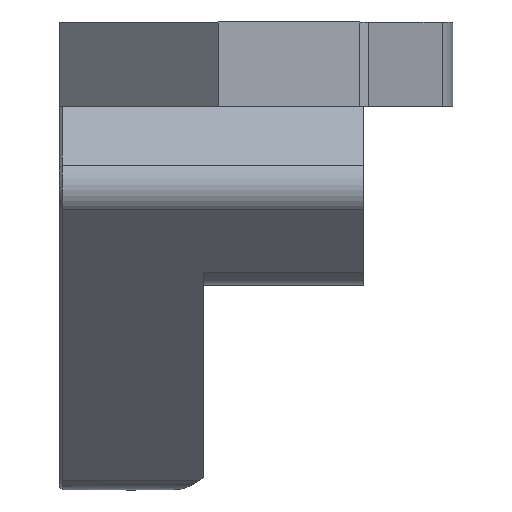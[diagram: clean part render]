
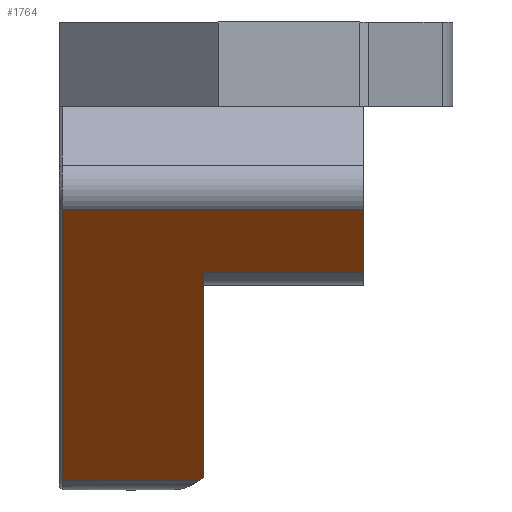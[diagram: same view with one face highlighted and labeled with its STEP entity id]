
A CAD part, left-side view. The second image highlights one B-rep face of the part: STEP entity #1764.
In plain terms, the highlighted planar face has unit normal (-0.707, 0, -0.707).
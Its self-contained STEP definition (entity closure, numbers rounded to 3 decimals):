
#27=ELLIPSE('',#1818,16.546,11.7);
#169=PLANE('',#1897);
#265=LINE('',#3474,#408);
#273=LINE('',#3492,#416);
#274=LINE('',#3497,#417);
#275=LINE('',#3498,#418);
#276=LINE('',#3499,#419);
#277=LINE('',#3500,#420);
#408=VECTOR('',#2200,10.);
#416=VECTOR('',#2218,10.);
#417=VECTOR('',#2223,10.);
#418=VECTOR('',#2224,10.);
#419=VECTOR('',#2225,10.);
#420=VECTOR('',#2226,10.);
#526=FACE_OUTER_BOUND('',#640,.T.);
#640=EDGE_LOOP('',(#1470,#1471,#1472,#1473,#1474,#1475,#1476));
#783=VERTEX_POINT('',#3065);
#784=VERTEX_POINT('',#3067);
#863=VERTEX_POINT('',#3469);
#864=VERTEX_POINT('',#3473);
#869=VERTEX_POINT('',#3491);
#870=VERTEX_POINT('',#3495);
#871=VERTEX_POINT('',#3496);
#971=EDGE_CURVE('',#784,#783,#27,.T.);
#1081=EDGE_CURVE('',#863,#864,#265,.T.);
#1090=EDGE_CURVE('',#864,#869,#273,.T.);
#1092=EDGE_CURVE('',#870,#871,#274,.T.);
#1093=EDGE_CURVE('',#869,#870,#275,.T.);
#1094=EDGE_CURVE('',#784,#863,#276,.T.);
#1095=EDGE_CURVE('',#783,#871,#277,.T.);
#1470=ORIENTED_EDGE('',*,*,#1092,.F.);
#1471=ORIENTED_EDGE('',*,*,#1093,.F.);
#1472=ORIENTED_EDGE('',*,*,#1090,.F.);
#1473=ORIENTED_EDGE('',*,*,#1081,.F.);
#1474=ORIENTED_EDGE('',*,*,#1094,.F.);
#1475=ORIENTED_EDGE('',*,*,#971,.T.);
#1476=ORIENTED_EDGE('',*,*,#1095,.T.);
#1764=ADVANCED_FACE('',(#526),#169,.T.);
#1818=AXIS2_PLACEMENT_3D('',#3068,#1993,#1994);
#1897=AXIS2_PLACEMENT_3D('',#3494,#2221,#2222);
#1993=DIRECTION('center_axis',(0.707,0.,0.707));
#1994=DIRECTION('ref_axis',(0.707,0.,-0.707));
#2200=DIRECTION('',(-0.707,0.,0.707));
#2218=DIRECTION('',(0.,-1.,0.));
#2221=DIRECTION('center_axis',(-0.707,0.,
-0.707));
#2222=DIRECTION('ref_axis',(0.707,0.,-0.707));
#2223=DIRECTION('',(0.,1.,0.));
#2224=DIRECTION('',(0.707,0.,-0.707));
#2225=DIRECTION('',(0.,1.,0.));
#2226=DIRECTION('',(-0.707,0.,0.707));
#3065=CARTESIAN_POINT('',(22.698,42.458,-1.687));
#3067=CARTESIAN_POINT('',(22.898,42.745,-1.887));
#3068=CARTESIAN_POINT('Origin',(32.397,35.913,-11.385));
#3469=CARTESIAN_POINT('',(22.898,52.008,-1.887));
#3473=CARTESIAN_POINT('',(4.55,52.008,16.462));
#3474=CARTESIAN_POINT('',(10.867,52.008,10.145));
#3491=CARTESIAN_POINT('',(4.55,31.62,16.462));
#3492=CARTESIAN_POINT('',(4.55,40.858,16.462));
#3494=CARTESIAN_POINT('Origin',(4.55,51.908,16.462));
#3495=CARTESIAN_POINT('',(8.775,31.62,12.237));
#3496=CARTESIAN_POINT('',(8.775,42.458,12.237));
#3497=CARTESIAN_POINT('',(8.775,46.636,12.237));
#3498=CARTESIAN_POINT('',(10.867,31.62,10.145));
#3499=CARTESIAN_POINT('',(22.898,50.261,-1.887));
#3500=CARTESIAN_POINT('',(6.651,42.458,14.36));
